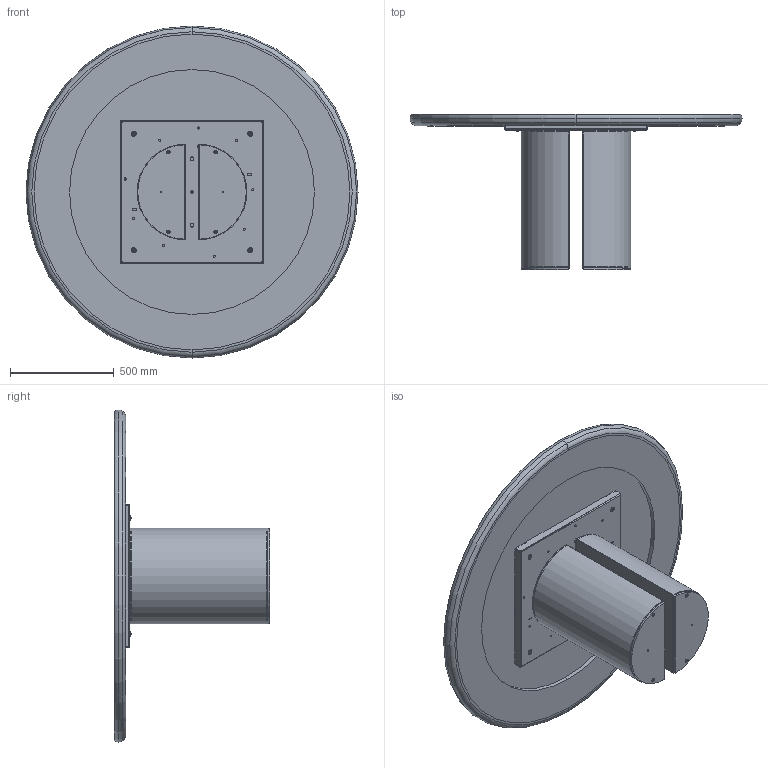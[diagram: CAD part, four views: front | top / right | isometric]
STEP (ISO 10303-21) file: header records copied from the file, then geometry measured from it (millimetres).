
FILE_DESCRIPTION (( 'STEP AP203' ), '1' );
FILE_NAME ('DR07K_Dora_d.160_King.STEP', '2024-07-31T13:40:12', ( '' ), ( '' ), 'SwSTEP 2.0', 'SolidWorks 2022', '' );
FILE_SCHEMA (( 'CONFIG_CONTROL_DESIGN' ));
Length unit declared in the file: millimetre
Products named in the file (16): ASSIEME PIANO KING_PIANO+CERAMICA DIAM160; TTAV0801-02-TELAIO UNIVERSALE TONDO-VASSOIO; DR07K_Dora_d.160_King; K91-00-PIANO SOLO CERAMICA D.156.7cm X PIANO C BORDO; M8xXXmm_hex_M8X20mm; TTAV0801-02-TELAIO UNIVERSALE TONDO; PLA000000ZOC-01-PLAI ZOCCOLO DELLA BASE; rondella M8_8X24; W91-01-PIANO KING BORDO Ø160 SAGOMATO LACCATO; M8xXXmm_M8x55mm; PLA000000BAS-00-PLAI BASE GREZZA; COLLO TELAIO UNIVERSALE TTAV0801 CON FERRAMENTA_MTG TOP LEGNO-MARMO-KING; M8xXXmm_hex_M8X60mm; TTAV0801 TELAIO UNIVERSALE TONDO-PIASTRINA; Assieme Basamento PLAI_Basamento per tavoli; M8xXXmm_M8x20mm
Assembly tree (32 placements, depth 4):
  DR07K_Dora_d.160_King
    Assieme Basamento PLAI_Basamento per tavoli  x2
      PLA000000BAS-00-PLAI BASE GREZZA
      PLA000000ZOC-01-PLAI ZOCCOLO DELLA BASE
      M8xXXmm_hex_M8X60mm
      M8xXXmm_hex_M8X20mm
    COLLO TELAIO UNIVERSALE TTAV0801 CON FERRAMENTA_MTG TOP LEGNO-MARMO-KING
      TTAV0801-02-TELAIO UNIVERSALE TONDO
        TTAV0801-02-TELAIO UNIVERSALE TONDO-VASSOIO
        TTAV0801 TELAIO UNIVERSALE TONDO-PIASTRINA  x4
      rondella M8_8X24  x4
      M8xXXmm_M8x55mm  x4
    rondella M8_8X24  x4
    M8xXXmm_M8x20mm  x4
    ASSIEME PIANO KING_PIANO+CERAMICA DIAM160
      W91-01-PIANO KING BORDO Ø160 SAGOMATO LACCATO
      K91-00-PIANO SOLO CERAMICA D.156.7cm X PIANO C BORDO
Bounding box: 1600 x 750 x 1600 mm (x, y, z)
Volume: 96104830.2 mm3; surface area: 13255342.6 mm2
Topology: 37 solids, 37 shells, 1068 faces, 2572 edges, 1564 vertices
Faces by surface type: plane 474, cylinder 348, cone 132, torus 114
Entity records: 18377 total; most frequent: DIRECTION 2951, CARTESIAN_POINT 2877, ORIENTED_EDGE 2666, EDGE_CURVE 1333, AXIS2_PLACEMENT_3D 1084, VERTEX_POINT 838, LINE 783, VECTOR 783
